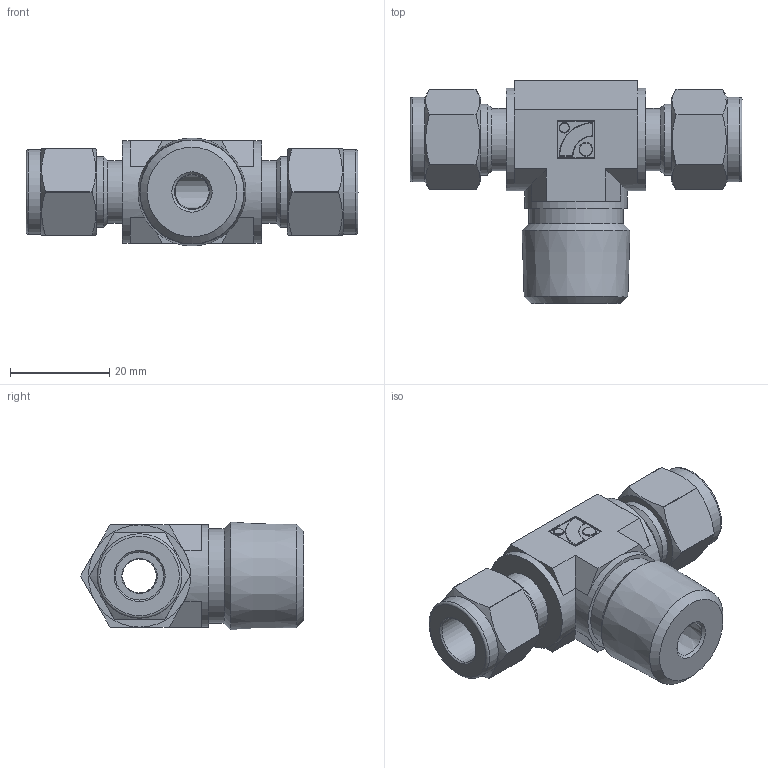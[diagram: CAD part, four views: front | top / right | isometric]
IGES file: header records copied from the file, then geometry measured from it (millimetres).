
Global section: file name: No Iges File Name specified; native system: Autodesk Inventor 2012; preprocessor: AutoDesk Inventor Iges Exporter R2012; author: 硅己绕,, ; organization: 11; date: 20150815.155209; units: millimetre
Bounding box: 66.82 x 44.89 x 21.71 mm (x, y, z)
Volume: 21917.3 mm3; surface area: 9168.6 mm2
Topology: 1 solids, 1 shells, 136 faces, 310 edges, 186 vertices
Faces by surface type: plane 60, cylinder 35, revolution 22, cone 9, torus 6, sphere 4
Full cylindrical faces by diameter (mm): 2.006 x1, 2.675 x1, 12.5 x2, 14.28 x2, 17 x2, 18.996 x1, 20.6 x3
